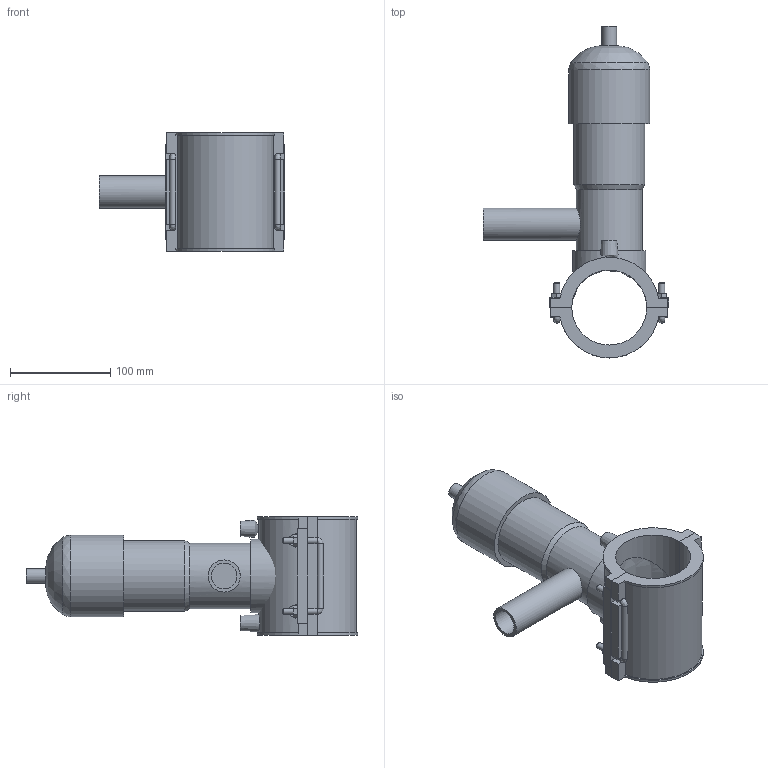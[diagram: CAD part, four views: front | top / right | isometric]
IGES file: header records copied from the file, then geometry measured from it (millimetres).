
Global section: file name: 495404075032.ipt; native system: Autodesk Inventor 2015; preprocessor: unknown; author: KIM; date: 20171106.094238; units: millimetre
Bounding box: 185.5 x 331.71 x 118 mm (x, y, z)
Volume: 1369382.1 mm3; surface area: 179278.4 mm2
Topology: 3 solids, 3 shells, 141 faces, 352 edges, 222 vertices
Faces by surface type: plane 89, cylinder 25, revolution 12, bspline 8, cone 7
Full cylindrical faces by diameter (mm): 4 x2, 6 x10, 14.64 x1, 32 x1, 65.88 x1, 70.76 x1, 73.2 x1, 81.333 x1
